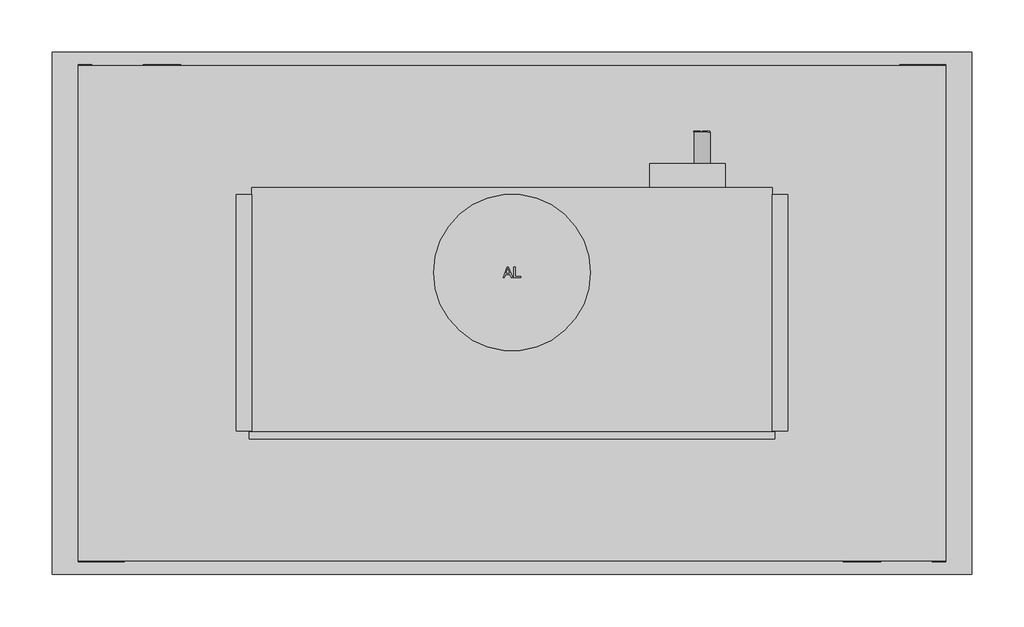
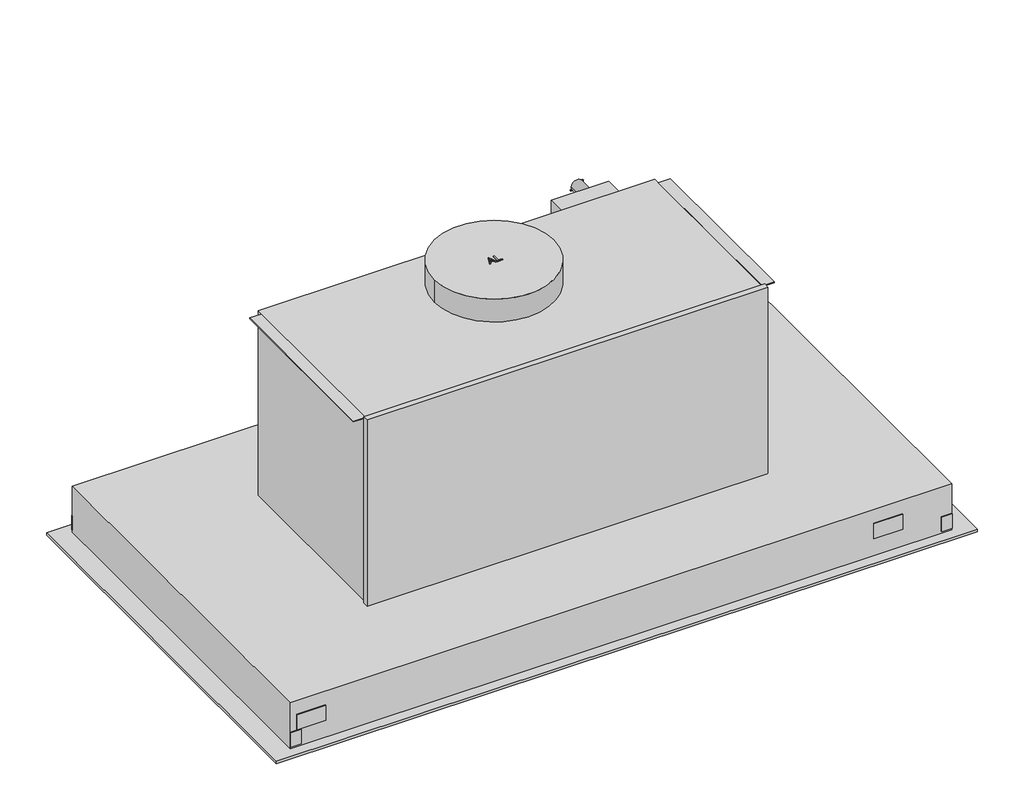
# Not in any storey: 1 proxy.
"""IFC4 building model written with IfcOpenShell, lengths in millimetres."""

from ifc_helpers import new_model, si_unit, origin, place, context, project, spatial, transform, mapped, element, save
from components import specialty_equipment_4885083e

model = new_model("IFC4")

# Units and contexts
model_context = context("Model", 3, world=origin())
ifc_project = project(units=[si_unit("LENGTHUNIT", "METRE", prefix="MILLI")], contexts=[model_context])

# Site, building
site = spatial("IfcSite", under=ifc_project)
building = spatial("IfcBuilding", under=site)

# Proxy
placement = place(None, origin())
specialty_equipment_shape = specialty_equipment_4885083e(model_context)
element("IfcBuildingElementProxy", 1, Name="10847540_I_DA2808_EDST : 28280855_I_10847540_DA2808_EDST", ObjectType="10847540_I_DA2808_EDST : 28280855_I_10847540_DA2808_EDST", at=placement, inside=building, context=model_context, shape_type="MappedRepresentation", body=[
    mapped(specialty_equipment_shape, transform((0.0, 0.0, 0.0), x_axis=(1.0, 0.0, 0.0), y_axis=(0.0, 1.0, 0.0), z_axis=(0.0, 0.0, 1.0))),
])

save(model, "model.ifc")
